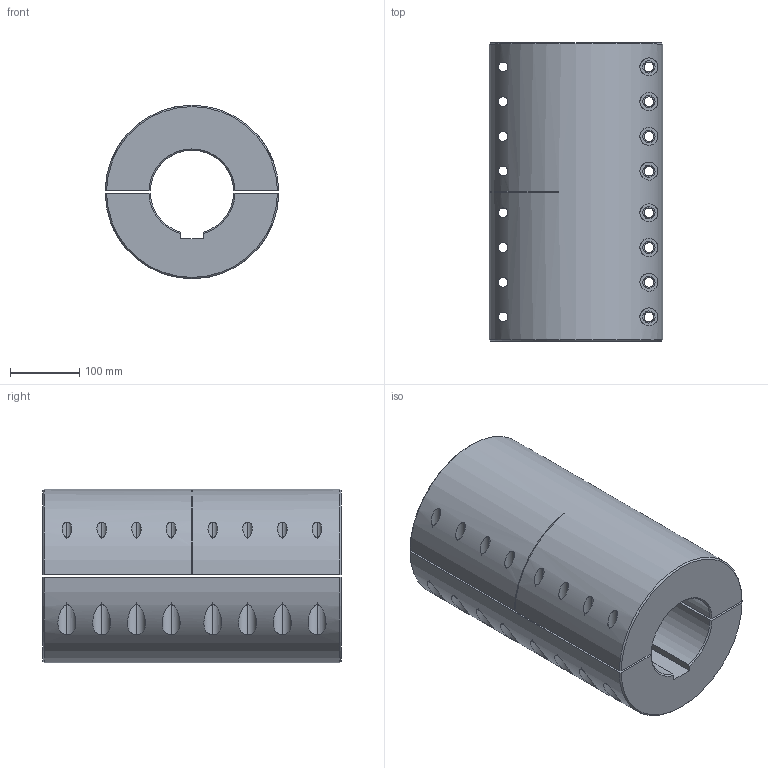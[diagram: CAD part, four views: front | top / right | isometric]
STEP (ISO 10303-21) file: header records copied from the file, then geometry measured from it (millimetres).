
FILE_DESCRIPTION (( 'STEP AP203' ), '1' );
FILE_NAME ('Y250-120N120N-F.STEP', '2020-08-05T10:41:23', ( '' ), ( '' ), 'SwSTEP 2.0', 'SolidWorks 2020', '' );
FILE_SCHEMA (( 'CONFIG_CONTROL_DESIGN' ));
Length unit declared in the file: millimetre
Products named in the file (1): Y250-120N120N-F
Bounding box: 249.98 x 430 x 250 mm (x, y, z)
Volume: 15290720.4 mm3; surface area: 815905 mm2
Topology: 2 solids, 2 shells, 150 faces, 389 edges, 259 vertices
Faces by surface type: cylinder 102, plane 35, cone 13
Entity records: 7879 total; most frequent: CARTESIAN_POINT 3995, ORIENTED_EDGE 778, DIRECTION 770, EDGE_CURVE 389, AXIS2_PLACEMENT_3D 314, VERTEX_POINT 259, EDGE_LOOP 230, CIRCLE 163
